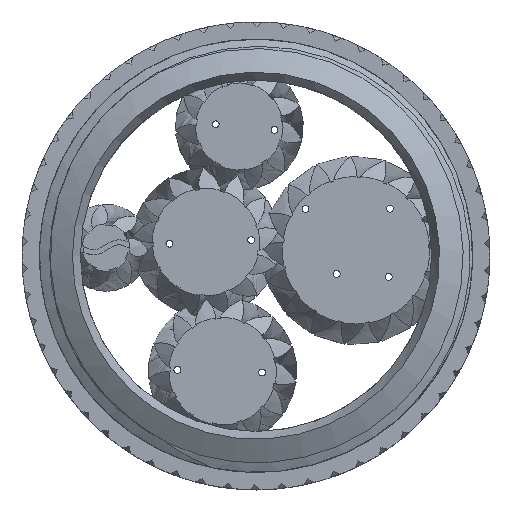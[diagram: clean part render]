
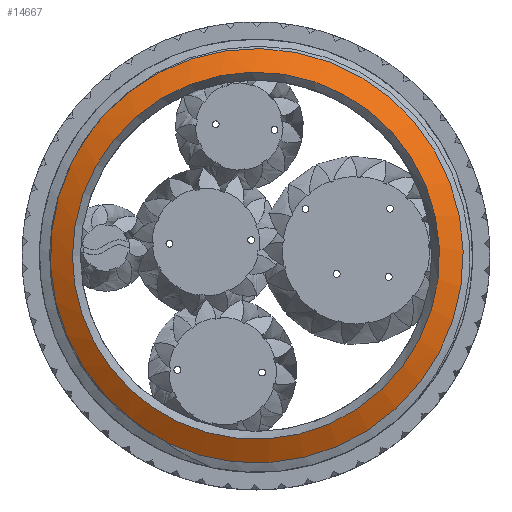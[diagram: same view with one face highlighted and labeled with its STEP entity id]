
A CAD part, top view. The second image highlights one B-rep face of the part: STEP entity #14667.
In plain terms, the highlighted conical face has half-angle 60 degrees and reference radius 29.393 mm.
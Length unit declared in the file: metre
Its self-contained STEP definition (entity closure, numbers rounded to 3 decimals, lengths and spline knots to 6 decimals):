
#1660=CIRCLE('',#15524,0.033176);
#1715=CIRCLE('',#15582,0.029393);
#5869=ORIENTED_EDGE('',*,*,#8356,.T.);
#5870=ORIENTED_EDGE('',*,*,#7830,.T.);
#5871=ORIENTED_EDGE('',*,*,#7827,.T.);
#5872=ORIENTED_EDGE('',*,*,#7834,.F.);
#5873=ORIENTED_EDGE('',*,*,#8681,.F.);
#7827=EDGE_CURVE('',#9708,#9707,#11109,.T.);
#7830=EDGE_CURVE('',#9709,#9708,#11111,.F.);
#7834=EDGE_CURVE('',#9710,#9707,#11115,.F.);
#8356=EDGE_CURVE('',#9710,#9709,#1660,.T.);
#8681=EDGE_CURVE('',#10317,#10317,#1715,.T.);
#9707=VERTEX_POINT('',#106335);
#9708=VERTEX_POINT('',#106351);
#9709=VERTEX_POINT('',#106632);
#9710=VERTEX_POINT('',#106757);
#10317=VERTEX_POINT('',#114765);
#11109=B_SPLINE_CURVE_WITH_KNOTS('',3,(#106336,#106337,#106338,#106339,
#106340,#106341,#106342,#106343,#106344,#106345,#106346,#106347,#106348,
#106349,#106350),.UNSPECIFIED.,.F.,.F.,(4,1,1,1,1,1,1,1,1,1,1,1,4),(0.058458,
0.065016,0.071574,0.078131,0.084689,
0.087968,0.091247,0.094526,0.097805,
0.101084,0.104363,0.107642,0.110921),
 .UNSPECIFIED.);
#11111=B_SPLINE_CURVE_WITH_KNOTS('',3,(#106627,#106628,#106629,#106630,
#106631),.UNSPECIFIED.,.F.,.F.,(4,1,4),(0.405229,0.409965,
0.414701),.UNSPECIFIED.);
#11115=B_SPLINE_CURVE_WITH_KNOTS('',3,(#106758,#106759,#106760,#106761),
 .UNSPECIFIED.,.F.,.F.,(4,4),(0.0075,0.007643),
 .UNSPECIFIED.);
#12642=EDGE_LOOP('',(#5869,#5870,#5871,#5872));
#12643=EDGE_LOOP('',(#5873));
#13618=FACE_BOUND('',#12642,.T.);
#13619=FACE_BOUND('',#12643,.T.);
#13922=CONICAL_SURFACE('',#15583,0.029393,1.047);
#14667=ADVANCED_FACE('',(#13618,#13619),#13922,.T.);
#15524=AXIS2_PLACEMENT_3D('',#111952,#16988,#16989);
#15582=AXIS2_PLACEMENT_3D('',#114764,#17104,#17105);
#15583=AXIS2_PLACEMENT_3D('',#114766,#17106,#17107);
#16988=DIRECTION('',(0.,0.,1.));
#16989=DIRECTION('',(-1.,0.,0.));
#17104=DIRECTION('',(0.,0.,1.));
#17105=DIRECTION('',(-1.,0.,0.));
#17106=DIRECTION('',(0.,0.,-1.));
#17107=DIRECTION('',(1.,0.,0.));
#106335=CARTESIAN_POINT('',(-0.01428,-0.029808,0.062871));
#106336=CARTESIAN_POINT('',(-0.029681,0.014543,0.062871));
#106337=CARTESIAN_POINT('',(-0.030623,0.01257,0.062884));
#106338=CARTESIAN_POINT('',(-0.032119,0.008424,0.062906));
#106339=CARTESIAN_POINT('',(-0.033102,0.002034,0.062931));
#106340=CARTESIAN_POINT('',(-0.03282,-0.004549,0.062949));
#106341=CARTESIAN_POINT('',(-0.031546,-0.009775,0.06296));
#106342=CARTESIAN_POINT('',(-0.0299,-0.013836,0.062964));
#106343=CARTESIAN_POINT('',(-0.028392,-0.016705,0.062966));
#106344=CARTESIAN_POINT('',(-0.026622,-0.019408,0.062964));
#106345=CARTESIAN_POINT('',(-0.024572,-0.021958,0.06296));
#106346=CARTESIAN_POINT('',(-0.02229,-0.024291,0.062951));
#106347=CARTESIAN_POINT('',(-0.019819,-0.026375,0.062937));
#106348=CARTESIAN_POINT('',(-0.017155,-0.028226,0.062915));
#106349=CARTESIAN_POINT('',(-0.015246,-0.0293,0.062895));
#106350=CARTESIAN_POINT('',(-0.01428,-0.029808,0.062871));
#106351=CARTESIAN_POINT('',(-0.029681,0.014543,0.062871));
#106627=CARTESIAN_POINT('',(-0.029681,0.014543,0.062871));
#106628=CARTESIAN_POINT('',(-0.029004,0.015972,0.06286));
#106629=CARTESIAN_POINT('',(-0.027428,0.018759,0.062835));
#106630=CARTESIAN_POINT('',(-0.02549,0.021263,0.062812));
#106631=CARTESIAN_POINT('',(-0.024425,0.022451,0.0628));
#106632=CARTESIAN_POINT('',(-0.024425,0.022451,0.0628));
#106757=CARTESIAN_POINT('',(-0.014334,-0.02992,0.0628));
#106758=CARTESIAN_POINT('',(-0.01428,-0.029808,0.062871));
#106759=CARTESIAN_POINT('',(-0.014298,-0.029846,0.062848));
#106760=CARTESIAN_POINT('',(-0.014316,-0.029883,0.062824));
#106761=CARTESIAN_POINT('',(-0.014334,-0.02992,0.0628));
#111952=CARTESIAN_POINT('',(0.,0.,0.0628));
#114764=CARTESIAN_POINT('',(0.,0.,0.064984));
#114765=CARTESIAN_POINT('',(-0.029393,0.,0.064984));
#114766=CARTESIAN_POINT('',(0.,0.,0.064984));
